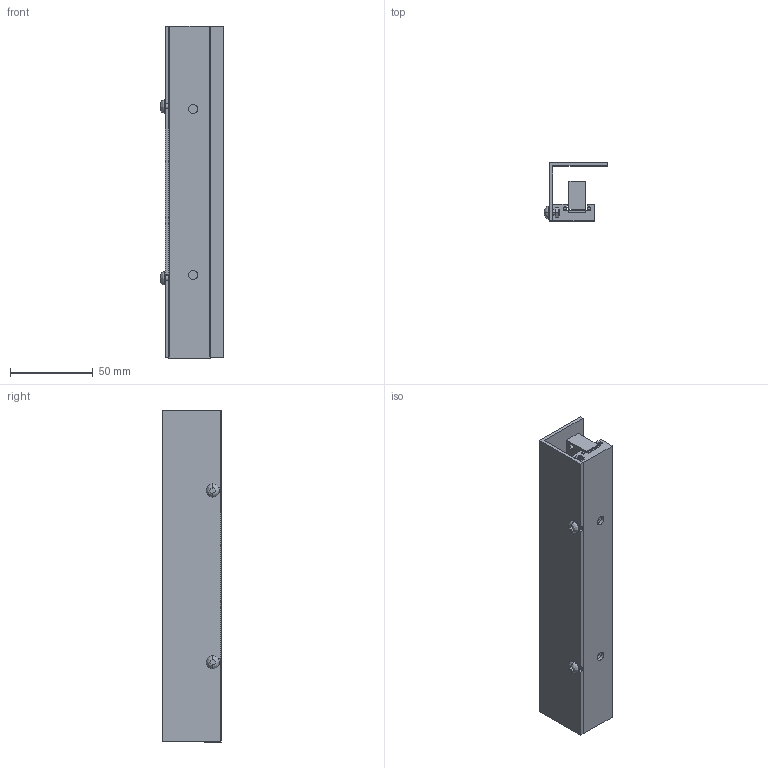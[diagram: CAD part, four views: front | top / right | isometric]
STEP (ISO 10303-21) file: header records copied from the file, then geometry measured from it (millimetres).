
FILE_DESCRIPTION (( 'STEP AP203' ), '1' );
FILE_NAME ('TMLS-05A-02 + AP02 + L.STEP', '2017-10-05T18:41:43', ( '' ), ( '' ), 'SwSTEP 2.0', 'SolidWorks 2014', '' );
FILE_SCHEMA (( 'CONFIG_CONTROL_DESIGN' ));
Length unit declared in the file: millimetre
Products named in the file (9): L krytka_1; nerez. pßska; Üroub M3; tsnﾝcﾝ guma pr.2; mag. pßska; TMLS-05A-02 + AP02 + L; TMLS-05A; matka M3_1; profil_1
Assembly tree (10 placements, depth 2):
  TMLS-05A-02 + AP02 + L
    profil_1
    matka M3_1
    tsnﾝcﾝ guma pr.2  x2
    Üroub M3  x2
    TMLS-05A
    L krytka_1
    mag. pßska
    nerez. pßska
Bounding box: 38 x 35.1 x 200 mm (x, y, z)
Volume: 73302.4 mm3; surface area: 60894.2 mm2
Topology: 10 solids, 10 shells, 178 faces, 434 edges, 276 vertices
Faces by surface type: plane 102, cylinder 56, cone 16, bspline 4
Entity records: 5713 total; most frequent: CARTESIAN_POINT 922, DIRECTION 802, ORIENTED_EDGE 776, EDGE_CURVE 388, AXIS2_PLACEMENT_3D 269, LINE 264, VECTOR 264, VERTEX_POINT 249
